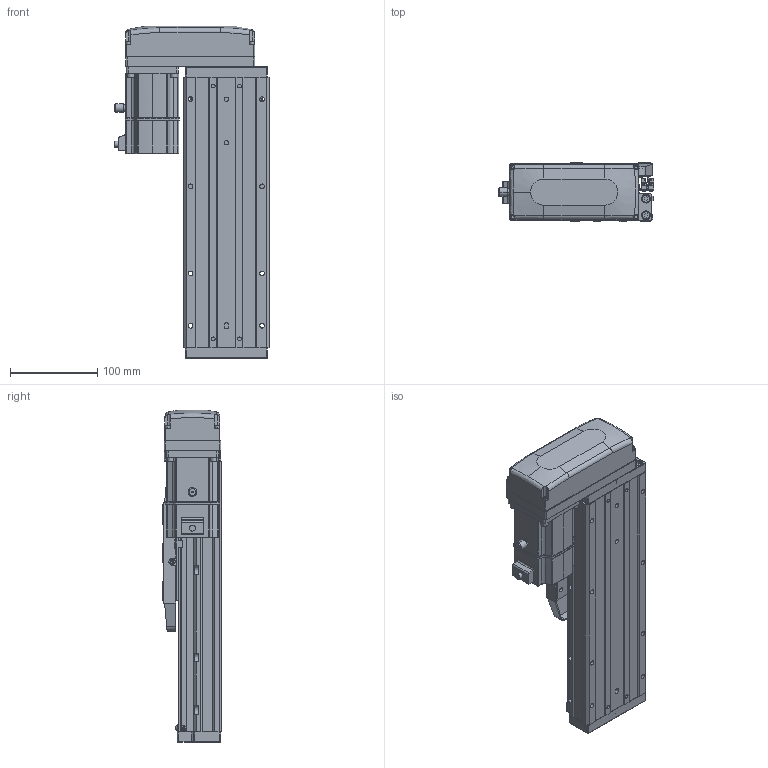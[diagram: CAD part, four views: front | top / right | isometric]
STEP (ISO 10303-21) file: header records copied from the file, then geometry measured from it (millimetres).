
FILE_DESCRIPTION (( 'STEP AP203' ), '1' );
FILE_NAME ('CTHA100-100-BL-M20-C4L.step', '2022-07-06T09:07:04', ( '微软用户' ), ( '微软中国' ), 'SwSTEP 2.0', 'SolidWorks 2020', '' );
FILE_SCHEMA (( 'CONFIG_CONTROL_DESIGN' ));
Length unit declared in the file: millimetre
Products named in the file (19): GB¨uT 70.2-M3¡Á5_M3¡Á6; CTHA60-016; CTHA86-033; EE_SX911P_R; _X2_4E0983F1_X0_200W_1; CTHA100-100-BL-M20-C4L; CTHA60-017; CTHA100-002; CTHA60-021; CTHA100-031; KTHA100-001_310; GBT77-2000 M3×3; CTHA86-030; KTHA100-004; GBT 70.1-M3℅6; GBT 70.3-M3℅6; KTHA100-005; GBT70.1 M5℅16; CTHA86-015-1_CTHA86-015-2
Assembly tree (64 placements, depth 2):
  CTHA100-100-BL-M20-C4L
    KTHA100-001_310
    KTHA100-004
    KTHA100-005
    GB¨uT 70.2-M3¡Á5_M3¡Á6  x10
    EE_SX911P_R  x3
    CTHA60-017  x3
    CTHA60-021  x2
    GBT77-2000 M3×3  x6
    GBT 70.1-M3℅6  x10
    GBT70.1 M5℅16  x14
    CTHA60-016  x2
    _X2_4E0983F1_X0_200W_1
    CTHA100-002
    CTHA100-031
    CTHA86-030  x2
    GBT 70.3-M3℅6  x4
    CTHA86-015-1_CTHA86-015-2
    CTHA86-033
Bounding box: 178.52 x 68 x 381 mm (x, y, z)
Volume: 2081429.5 mm3; surface area: 382107 mm2
Topology: 66 solids, 66 shells, 2589 faces, 6191 edges, 3832 vertices
Faces by surface type: plane 1344, cylinder 677, cone 345, torus 124, bspline 75, sphere 24
Entity records: 43408 total; most frequent: CARTESIAN_POINT 8587, DIRECTION 6654, ORIENTED_EDGE 6498, EDGE_CURVE 3249, AXIS2_PLACEMENT_3D 2271, LINE 2112, VECTOR 2112, VERTEX_POINT 2052
